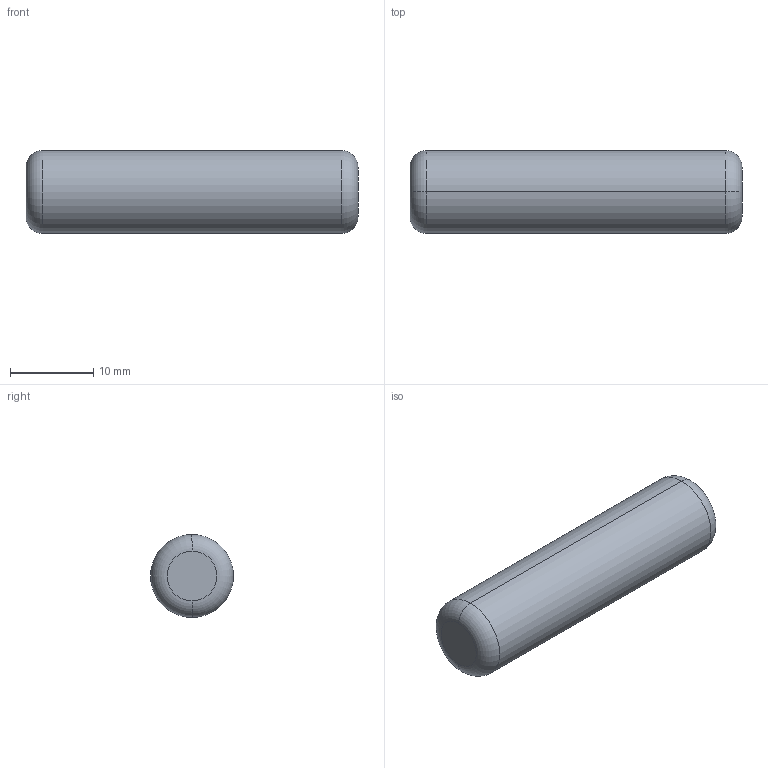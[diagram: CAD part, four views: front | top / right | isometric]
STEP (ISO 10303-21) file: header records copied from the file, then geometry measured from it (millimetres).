
FILE_DESCRIPTION (( 'STEP AP214' ), '1' );
FILE_NAME ('PAS-10x40.STEP', '2020-06-22T11:30:46', ( 'August' ), ( '' ), 'SwSTEP 2.0', 'SolidWorks 2018', '' );
FILE_SCHEMA (( 'AUTOMOTIVE_DESIGN' ));
Length unit declared in the file: millimetre
Products named in the file (1): PAS-10x40
Bounding box: 40 x 10 x 10 mm (x, y, z)
Volume: 3092.5 mm3; surface area: 1356.2 mm2
Topology: 1 solids, 1 shells, 8 faces, 14 edges, 8 vertices
Faces by surface type: torus 4, cylinder 2, plane 2
Entity records: 232 total; most frequent: DIRECTION 44, CARTESIAN_POINT 31, ORIENTED_EDGE 28, AXIS2_PLACEMENT_3D 21, EDGE_CURVE 14, CIRCLE 12, FACE_OUTER_BOUND 8, ADVANCED_FACE 8
